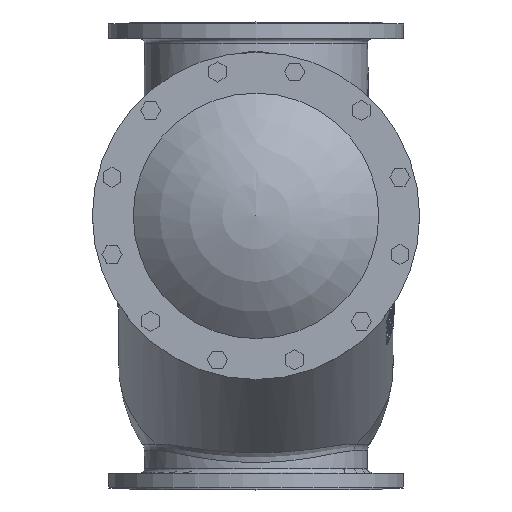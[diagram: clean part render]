
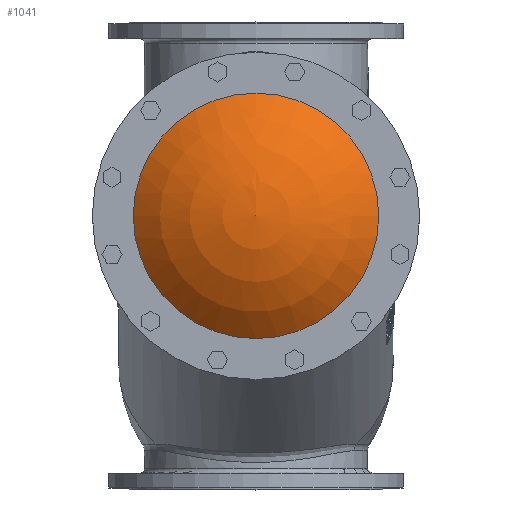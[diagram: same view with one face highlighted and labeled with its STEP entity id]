
A CAD part, top view. The second image highlights one B-rep face of the part: STEP entity #1041.
In plain terms, the highlighted spherical face has radius 301.912 mm.
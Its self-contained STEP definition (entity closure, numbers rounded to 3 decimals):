
#1041 = ADVANCED_FACE( '', ( #2332 ), #2333, .T. );
#2332 = FACE_OUTER_BOUND( '', #13112, .T. );
#2333 = SPHERICAL_SURFACE( '', #13113, 301.912 );
#13112 = EDGE_LOOP( '', ( #18078 ) );
#13113 = AXIS2_PLACEMENT_3D( '', #18079, #18080, #18081 );
#18078 = ORIENTED_EDGE( '', *, *, #19303, .T. );
#18079 = CARTESIAN_POINT( '', ( 0., 67.751, 309.55 ) );
#18080 = DIRECTION( '', ( 0., 0., 1. ) );
#18081 = DIRECTION( '', ( 0., 1., 0. ) );
#19303 = EDGE_CURVE( '', #21045, #21045, #21046, .T. );
#21045 = VERTEX_POINT( '', #29402 );
#21046 = CIRCLE( '', #29403, 210. );
#29402 = CARTESIAN_POINT( '', ( 0., -142.249, 526.461 ) );
#29403 = AXIS2_PLACEMENT_3D( '', #32308, #32309, #32310 );
#32308 = CARTESIAN_POINT( '', ( 0., 67.751, 526.461 ) );
#32309 = DIRECTION( '', ( 0., 0., 1. ) );
#32310 = DIRECTION( '', ( 0., -1., 0. ) );
